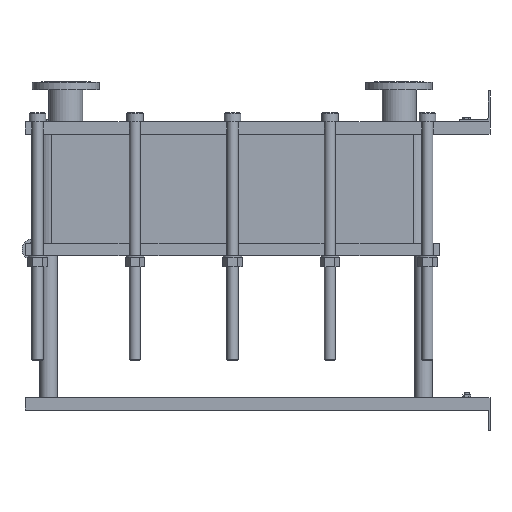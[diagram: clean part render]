
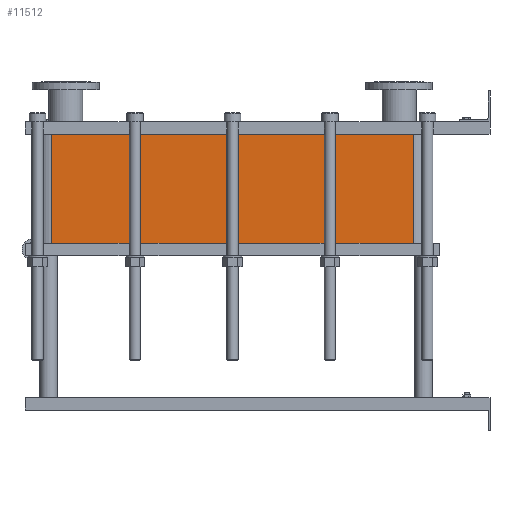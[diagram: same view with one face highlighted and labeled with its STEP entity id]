
A CAD part, left-side view. The second image highlights one B-rep face of the part: STEP entity #11512.
In plain terms, the highlighted planar face has unit normal (-1, 0, 0).
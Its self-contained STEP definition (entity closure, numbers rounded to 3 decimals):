
#1129=LINE('',#23232,#2102);
#1130=LINE('',#23236,#2103);
#1131=LINE('',#23238,#2104);
#1132=LINE('',#23239,#2105);
#2102=VECTOR('',#15887,10.);
#2103=VECTOR('',#15892,10.);
#2104=VECTOR('',#15893,10.);
#2105=VECTOR('',#15894,10.);
#3267=FACE_OUTER_BOUND('',#4093,.T.);
#4093=EDGE_LOOP('',(#10103,#10104,#10105,#10106));
#5642=VERTEX_POINT('',#23229);
#5643=VERTEX_POINT('',#23231);
#5644=VERTEX_POINT('',#23235);
#5645=VERTEX_POINT('',#23237);
#7159=EDGE_CURVE('',#5643,#5642,#1129,.T.);
#7161=EDGE_CURVE('',#5642,#5644,#1130,.T.);
#7162=EDGE_CURVE('',#5645,#5644,#1131,.T.);
#7163=EDGE_CURVE('',#5645,#5643,#1132,.T.);
#10103=ORIENTED_EDGE('',*,*,#7161,.T.);
#10104=ORIENTED_EDGE('',*,*,#7162,.F.);
#10105=ORIENTED_EDGE('',*,*,#7163,.T.);
#10106=ORIENTED_EDGE('',*,*,#7159,.T.);
#10857=PLANE('',#12751);
#11512=ADVANCED_FACE('',(#3267),#10857,.T.);
#12751=AXIS2_PLACEMENT_3D('',#23234,#15890,#15891);
#15887=DIRECTION('',(0.,0.,-1.));
#15890=DIRECTION('center_axis',(-1.,0.,0.));
#15891=DIRECTION('ref_axis',(0.,1.,0.));
#15892=DIRECTION('',(0.,-1.,0.));
#15893=DIRECTION('',(0.,0.,-1.));
#15894=DIRECTION('',(0.,1.,0.));
#23229=CARTESIAN_POINT('',(-200.,1414.,-351.9));
#23231=CARTESIAN_POINT('',(-200.,1414.,0.));
#23232=CARTESIAN_POINT('',(-200.,1414.,0.));
#23234=CARTESIAN_POINT('Origin',(-200.,248.,0.));
#23235=CARTESIAN_POINT('',(-200.,248.,-351.9));
#23236=CARTESIAN_POINT('',(-200.,539.5,-351.9));
#23237=CARTESIAN_POINT('',(-200.,248.,0.));
#23238=CARTESIAN_POINT('',(-200.,248.,0.));
#23239=CARTESIAN_POINT('',(-200.,248.,0.));
